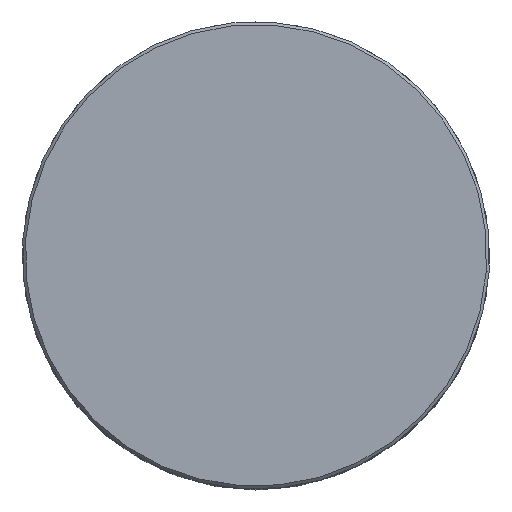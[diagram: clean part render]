
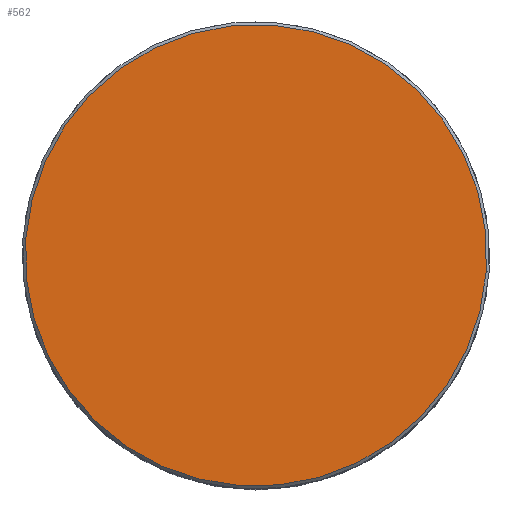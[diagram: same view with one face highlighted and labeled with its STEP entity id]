
A CAD part, top view. The second image highlights one B-rep face of the part: STEP entity #562.
In plain terms, the highlighted planar face has unit normal (0, 0, 1).
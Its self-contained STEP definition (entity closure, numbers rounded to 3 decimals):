
#13 = DIRECTION ( 'NONE',  ( -0.997, 0.071, 0. ) ) ;
#126 = CARTESIAN_POINT ( 'NONE',  ( 1.052, 14.712, -107.989 ) ) ;
#131 = CARTESIAN_POINT ( 'NONE',  ( 0., 0., -107.989 ) ) ;
#135 = CARTESIAN_POINT ( 'NONE',  ( 0., 0., -107.989 ) ) ;
#222 = AXIS2_PLACEMENT_3D ( 'NONE', #126, #363, #716 ) ;
#343 = CIRCLE ( 'NONE', #611, 15.8 ) ;
#363 = DIRECTION ( 'NONE',  ( 0., 0., -1. ) ) ;
#491 = DIRECTION ( 'NONE',  ( 0., 0., 1. ) ) ;
#562 = ADVANCED_FACE ( 'NONE', ( #852 ), #1433, .F. ) ;
#611 = AXIS2_PLACEMENT_3D ( 'NONE', #131, #1451, #13 ) ;
#648 = EDGE_CURVE ( 'NONE', #1032, #710, #1153, .T. ) ;
#697 = AXIS2_PLACEMENT_3D ( 'NONE', #135, #491, #747 ) ;
#710 = VERTEX_POINT ( 'NONE', #1446 ) ;
#716 = DIRECTION ( 'NONE',  ( -0.997, 0.071, 0. ) ) ;
#747 = DIRECTION ( 'NONE',  ( -0.997, 0.071, 0. ) ) ;
#852 = FACE_OUTER_BOUND ( 'NONE', #1321, .T. ) ;
#1032 = VERTEX_POINT ( 'NONE', #1383 ) ;
#1153 = CIRCLE ( 'NONE', #697, 15.8 ) ;
#1247 = EDGE_CURVE ( 'NONE', #710, #1032, #343, .T. ) ;
#1321 = EDGE_LOOP ( 'NONE', ( #1484, #1478 ) ) ;
#1383 = CARTESIAN_POINT ( 'NONE',  ( 15.76, -1.127, -107.989 ) ) ;
#1433 = PLANE ( 'NONE',  #222 ) ;
#1446 = CARTESIAN_POINT ( 'NONE',  ( -15.76, 1.127, -107.989 ) ) ;
#1451 = DIRECTION ( 'NONE',  ( 0., 0., 1. ) ) ;
#1478 = ORIENTED_EDGE ( 'NONE', *, *, #648, .T. ) ;
#1484 = ORIENTED_EDGE ( 'NONE', *, *, #1247, .T. ) ;
